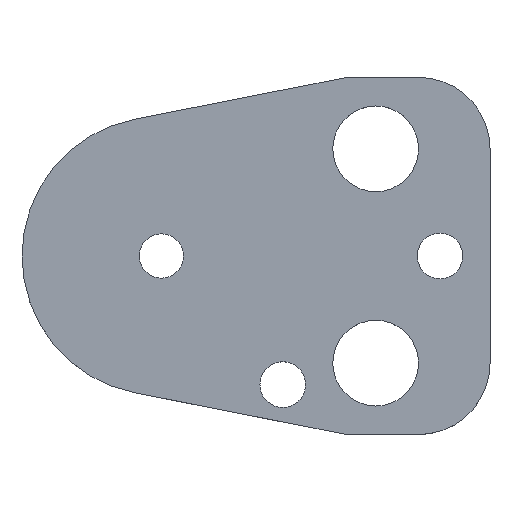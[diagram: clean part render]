
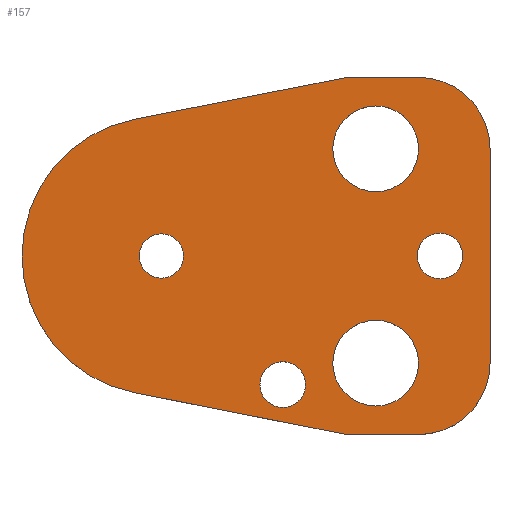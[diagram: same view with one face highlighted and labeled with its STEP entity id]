
A CAD part, top view. The second image highlights one B-rep face of the part: STEP entity #157.
In plain terms, the highlighted planar face has unit normal (0, 0, 1).
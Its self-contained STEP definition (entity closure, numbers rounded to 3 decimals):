
#103=FACE_BOUND('',#207,.T.);
#104=FACE_BOUND('',#208,.T.);
#105=FACE_BOUND('',#209,.T.);
#106=FACE_BOUND('',#210,.T.);
#107=FACE_BOUND('',#211,.T.);
#108=FACE_BOUND('',#212,.T.);
#122=CIRCLE('',#480,10.);
#124=CIRCLE('',#484,10.);
#127=CIRCLE('',#490,19.5);
#138=CIRCLE('',#503,3.2);
#139=CIRCLE('',#504,3.2);
#140=CIRCLE('',#505,6.);
#141=CIRCLE('',#506,6.);
#142=CIRCLE('',#507,6.);
#143=CIRCLE('',#508,6.);
#144=CIRCLE('',#509,3.2);
#145=CIRCLE('',#510,3.2);
#146=CIRCLE('',#511,3.1);
#147=CIRCLE('',#512,3.1);
#157=ADVANCED_FACE('',(#103,#104,#105,#106,#107,#108),#174,.T.);
#174=PLANE('',#513);
#207=EDGE_LOOP('',(#273,#274,#275,#276,#277,#278,#279,#280));
#208=EDGE_LOOP('',(#281,#282));
#209=EDGE_LOOP('',(#283,#284));
#210=EDGE_LOOP('',(#285,#286));
#211=EDGE_LOOP('',(#287,#288));
#212=EDGE_LOOP('',(#289,#290));
#273=ORIENTED_EDGE('',*,*,#368,.T.);
#274=ORIENTED_EDGE('',*,*,#372,.T.);
#275=ORIENTED_EDGE('',*,*,#375,.T.);
#276=ORIENTED_EDGE('',*,*,#378,.T.);
#277=ORIENTED_EDGE('',*,*,#381,.T.);
#278=ORIENTED_EDGE('',*,*,#384,.T.);
#279=ORIENTED_EDGE('',*,*,#387,.T.);
#280=ORIENTED_EDGE('',*,*,#390,.T.);
#281=ORIENTED_EDGE('',*,*,#401,.T.);
#282=ORIENTED_EDGE('',*,*,#402,.T.);
#283=ORIENTED_EDGE('',*,*,#403,.T.);
#284=ORIENTED_EDGE('',*,*,#404,.T.);
#285=ORIENTED_EDGE('',*,*,#405,.T.);
#286=ORIENTED_EDGE('',*,*,#406,.T.);
#287=ORIENTED_EDGE('',*,*,#407,.T.);
#288=ORIENTED_EDGE('',*,*,#408,.T.);
#289=ORIENTED_EDGE('',*,*,#409,.T.);
#290=ORIENTED_EDGE('',*,*,#410,.T.);
#332=VERTEX_POINT('',#649);
#333=VERTEX_POINT('',#651);
#336=VERTEX_POINT('',#658);
#338=VERTEX_POINT('',#664);
#340=VERTEX_POINT('',#670);
#342=VERTEX_POINT('',#676);
#344=VERTEX_POINT('',#682);
#346=VERTEX_POINT('',#688);
#357=VERTEX_POINT('',#717);
#358=VERTEX_POINT('',#718);
#359=VERTEX_POINT('',#721);
#360=VERTEX_POINT('',#722);
#361=VERTEX_POINT('',#725);
#362=VERTEX_POINT('',#726);
#363=VERTEX_POINT('',#729);
#364=VERTEX_POINT('',#730);
#365=VERTEX_POINT('',#733);
#366=VERTEX_POINT('',#734);
#368=EDGE_CURVE('',#333,#332,#422,.T.);
#372=EDGE_CURVE('',#332,#336,#426,.T.);
#375=EDGE_CURVE('',#336,#338,#122,.T.);
#378=EDGE_CURVE('',#338,#340,#430,.T.);
#381=EDGE_CURVE('',#340,#342,#124,.T.);
#384=EDGE_CURVE('',#342,#344,#434,.T.);
#387=EDGE_CURVE('',#344,#346,#437,.T.);
#390=EDGE_CURVE('',#346,#333,#127,.T.);
#401=EDGE_CURVE('',#357,#358,#138,.T.);
#402=EDGE_CURVE('',#358,#357,#139,.T.);
#403=EDGE_CURVE('',#359,#360,#140,.T.);
#404=EDGE_CURVE('',#360,#359,#141,.T.);
#405=EDGE_CURVE('',#361,#362,#142,.T.);
#406=EDGE_CURVE('',#362,#361,#143,.T.);
#407=EDGE_CURVE('',#363,#364,#144,.T.);
#408=EDGE_CURVE('',#364,#363,#145,.T.);
#409=EDGE_CURVE('',#365,#366,#146,.T.);
#410=EDGE_CURVE('',#366,#365,#147,.T.);
#422=LINE('',#650,#450);
#426=LINE('',#659,#454);
#430=LINE('',#671,#458);
#434=LINE('',#683,#462);
#437=LINE('',#689,#465);
#450=VECTOR('',#527,1.);
#454=VECTOR('',#533,1.);
#458=VECTOR('',#545,1.);
#462=VECTOR('',#557,1.);
#465=VECTOR('',#562,1.);
#480=AXIS2_PLACEMENT_3D('',#665,#538,#539);
#484=AXIS2_PLACEMENT_3D('',#677,#550,#551);
#490=AXIS2_PLACEMENT_3D('',#693,#568,#569);
#503=AXIS2_PLACEMENT_3D('',#716,#594,#595);
#504=AXIS2_PLACEMENT_3D('',#719,#596,#597);
#505=AXIS2_PLACEMENT_3D('',#720,#598,#599);
#506=AXIS2_PLACEMENT_3D('',#723,#600,#601);
#507=AXIS2_PLACEMENT_3D('',#724,#602,#603);
#508=AXIS2_PLACEMENT_3D('',#727,#604,#605);
#509=AXIS2_PLACEMENT_3D('',#728,#606,#607);
#510=AXIS2_PLACEMENT_3D('',#731,#608,#609);
#511=AXIS2_PLACEMENT_3D('',#732,#610,#611);
#512=AXIS2_PLACEMENT_3D('',#735,#612,#613);
#513=AXIS2_PLACEMENT_3D('',#736,#614,#615);
#527=DIRECTION('',(0.981,-0.193,0.));
#533=DIRECTION('',(1.,0.,0.));
#538=DIRECTION('',(0.,0.,1.));
#539=DIRECTION('',(-0.707,0.707,0.));
#545=DIRECTION('',(0.,1.,0.));
#550=DIRECTION('',(0.,0.,1.));
#551=DIRECTION('',(-0.707,-0.707,0.));
#557=DIRECTION('',(-1.,0.,0.));
#562=DIRECTION('',(-0.981,-0.193,0.));
#568=DIRECTION('',(0.,0.,1.));
#569=DIRECTION('',(1.,0.,0.));
#594=DIRECTION('',(0.,0.,-1.));
#595=DIRECTION('',(-1.,0.,0.));
#596=DIRECTION('',(0.,0.,-1.));
#597=DIRECTION('',(1.,0.,0.));
#598=DIRECTION('',(0.,0.,-1.));
#599=DIRECTION('',(-1.,0.,0.));
#600=DIRECTION('',(0.,0.,-1.));
#601=DIRECTION('',(1.,0.,0.));
#602=DIRECTION('',(0.,0.,-1.));
#603=DIRECTION('',(-1.,0.,0.));
#604=DIRECTION('',(0.,0.,-1.));
#605=DIRECTION('',(1.,0.,0.));
#606=DIRECTION('',(0.,0.,-1.));
#607=DIRECTION('',(-1.,0.,0.));
#608=DIRECTION('',(0.,0.,-1.));
#609=DIRECTION('',(1.,0.,0.));
#610=DIRECTION('',(0.,0.,-1.));
#611=DIRECTION('',(-1.,0.,0.));
#612=DIRECTION('',(0.,0.,-1.));
#613=DIRECTION('',(1.,0.,0.));
#614=DIRECTION('',(0.,0.,1.));
#615=DIRECTION('',(0.981,-0.193,0.));
#649=CARTESIAN_POINT('',(26.,-25.,5.));
#650=CARTESIAN_POINT('',(26.,-25.,5.));
#651=CARTESIAN_POINT('',(-3.771,-19.132,5.));
#658=CARTESIAN_POINT('',(36.,-25.,5.));
#659=CARTESIAN_POINT('',(26.,-25.,5.));
#664=CARTESIAN_POINT('',(46.,-15.,5.));
#665=CARTESIAN_POINT('',(36.,-15.,5.));
#670=CARTESIAN_POINT('',(46.,15.,5.));
#671=CARTESIAN_POINT('',(46.,15.,5.));
#676=CARTESIAN_POINT('',(36.,25.,5.));
#677=CARTESIAN_POINT('',(36.,15.,5.));
#682=CARTESIAN_POINT('',(26.,25.,5.));
#683=CARTESIAN_POINT('',(26.,25.,5.));
#688=CARTESIAN_POINT('',(-3.771,19.132,5.));
#689=CARTESIAN_POINT('',(26.,25.,5.));
#693=CARTESIAN_POINT('',(0.,0.,5.));
#716=CARTESIAN_POINT('',(39.,0.,5.));
#717=CARTESIAN_POINT('',(39.,3.2,5.));
#718=CARTESIAN_POINT('',(39.,-3.2,5.));
#719=CARTESIAN_POINT('',(39.,0.,5.));
#720=CARTESIAN_POINT('',(30.,15.,5.));
#721=CARTESIAN_POINT('',(30.,21.,5.));
#722=CARTESIAN_POINT('',(30.,9.,5.));
#723=CARTESIAN_POINT('',(30.,15.,5.));
#724=CARTESIAN_POINT('',(30.,-15.,5.));
#725=CARTESIAN_POINT('',(30.,-9.,5.));
#726=CARTESIAN_POINT('',(30.,-21.,5.));
#727=CARTESIAN_POINT('',(30.,-15.,5.));
#728=CARTESIAN_POINT('',(17.,-18.,5.));
#729=CARTESIAN_POINT('',(17.,-14.8,5.));
#730=CARTESIAN_POINT('',(17.,-21.2,5.));
#731=CARTESIAN_POINT('',(17.,-18.,5.));
#732=CARTESIAN_POINT('',(0.,0.,5.));
#733=CARTESIAN_POINT('',(0.,3.1,5.));
#734=CARTESIAN_POINT('',(0.,-3.1,5.));
#735=CARTESIAN_POINT('',(0.,0.,5.));
#736=CARTESIAN_POINT('',(-3.771,-19.132,5.));
